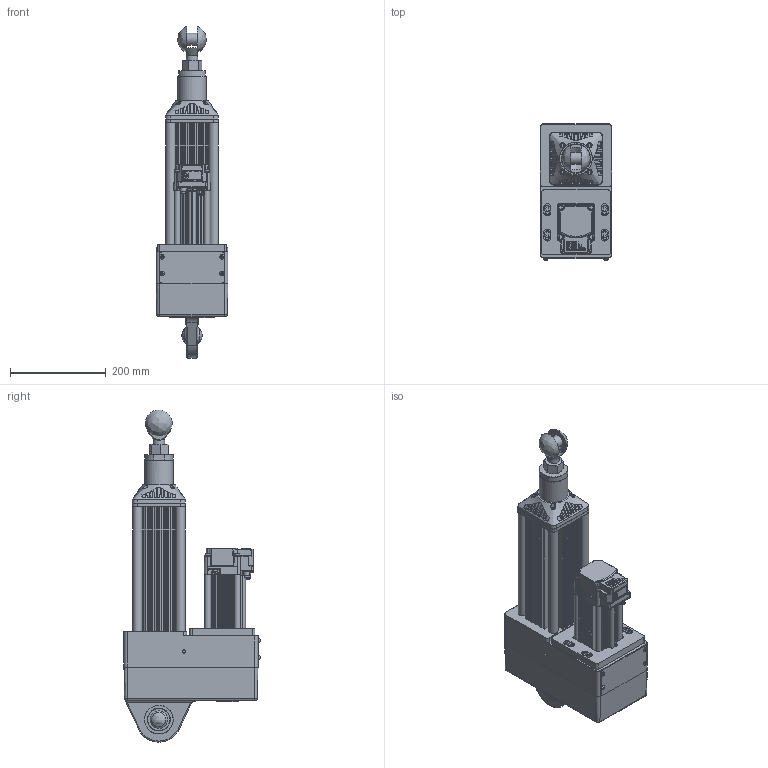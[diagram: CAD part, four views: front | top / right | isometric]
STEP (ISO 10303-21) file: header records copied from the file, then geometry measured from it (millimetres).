
FILE_DESCRIPTION (( 'STEP AP214' ), '1' );
FILE_NAME ('AG_9813 +-050.STEP', '2025-01-30T11:36:19', ( '' ), ( '' ), 'SwSTEP 2.0', 'SolidWorks 2022', '' );
FILE_SCHEMA (( 'AUTOMOTIVE_DESIGN' ));
Length unit declared in the file: millimetre
Products named in the file (1): AG_9813 +-050
Bounding box: 150 x 284.75 x 694.69 mm (x, y, z)
Volume: 11748699.5 mm3; surface area: 1183724.1 mm2
Topology: 62 solids, 63 shells, 4417 faces, 11357 edges, 7389 vertices
Faces by surface type: plane 1919, cylinder 1175, bspline 900, cone 251, torus 153, sphere 19
Full cylindrical faces by diameter (mm): 2.5 x2, 2.845 x2, 2.934 x2, 3 x2, 3.24 x1, 3.242 x1, 3.5 x2, 3.676 x1, 4.019 x8, 4.2 x9, 4.201 x1, 4.3 x1, 4.773 x4, 5 x12, 5.5 x4, 5.7 x1, 5.9 x1, 6 x4, 6.466 x1, 6.6 x4, 6.8 x2, 6.9 x3, 7 x1, 7.8 x1, 8 x7, 8.1 x1, 8.16 x10, 8.49 x4, 8.5 x13, 9 x1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
Entity records: 218725 total; most frequent: CARTESIAN_POINT 68770, ORIENTED_EDGE 21900, DIRECTION 18744, EDGE_CURVE 10950, VERTEX_POINT 7303, AXIS2_PLACEMENT_3D 6438, LINE 5868, VECTOR 5868
